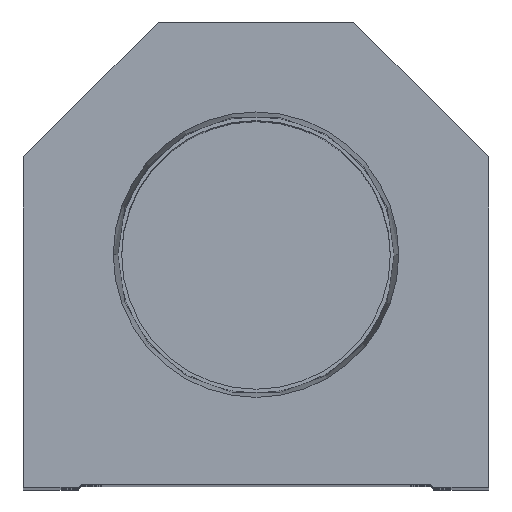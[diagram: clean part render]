
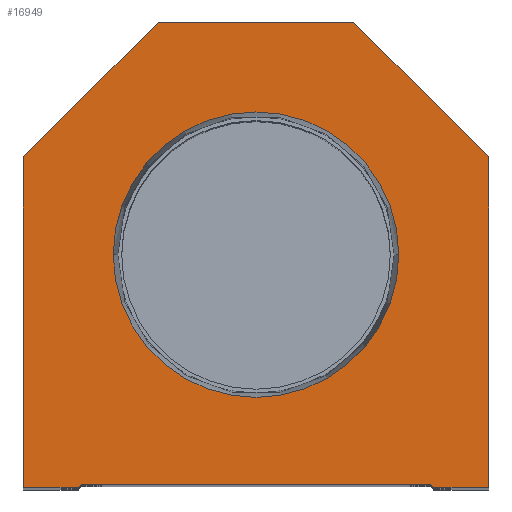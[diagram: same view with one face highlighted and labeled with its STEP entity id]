
A CAD part, top view. The second image highlights one B-rep face of the part: STEP entity #16949.
In plain terms, the highlighted planar face has unit normal (0, 0, 1).
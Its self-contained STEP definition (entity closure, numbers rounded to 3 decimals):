
#83 = DIRECTION ( 'NONE',  ( -1., 0., 0. ) ) ;
#151 = DIRECTION ( 'NONE',  ( 0., 0., 1. ) ) ;
#226 = EDGE_LOOP ( 'NONE', ( #2202, #17881 ) ) ;
#562 = CIRCLE ( 'NONE', #7959, 23.374 ) ;
#808 = VERTEX_POINT ( 'NONE', #3916 ) ;
#1235 = VECTOR ( 'NONE', #18504, 1000. ) ;
#1434 = LINE ( 'NONE', #6069, #9667 ) ;
#2001 = LINE ( 'NONE', #13223, #8708 ) ;
#2123 = VERTEX_POINT ( 'NONE', #6526 ) ;
#2202 = ORIENTED_EDGE ( 'NONE', *, *, #4161, .F. ) ;
#2557 = VECTOR ( 'NONE', #5436, 1000. ) ;
#2598 = VECTOR ( 'NONE', #11219, 1000. ) ;
#2617 = ORIENTED_EDGE ( 'NONE', *, *, #17027, .T. ) ;
#2696 = DIRECTION ( 'NONE',  ( 0.707, 0.707, 0. ) ) ;
#2942 = CARTESIAN_POINT ( 'NONE',  ( 0., 38.1, 0. ) ) ;
#3527 = CARTESIAN_POINT ( 'NONE',  ( 29.1, 0., 0. ) ) ;
#3648 = ORIENTED_EDGE ( 'NONE', *, *, #13901, .T. ) ;
#3916 = CARTESIAN_POINT ( 'NONE',  ( -38.1, 0., 0. ) ) ;
#4161 = EDGE_CURVE ( 'NONE', #2123, #14383, #6255, .T. ) ;
#4286 = VECTOR ( 'NONE', #19923, 1000. ) ;
#4335 = VERTEX_POINT ( 'NONE', #14930 ) ;
#4465 = EDGE_CURVE ( 'NONE', #16474, #8496, #14838, .T. ) ;
#4493 = VERTEX_POINT ( 'NONE', #20227 ) ;
#4545 = CARTESIAN_POINT ( 'NONE',  ( -29.1, 0., 0. ) ) ;
#4978 = LINE ( 'NONE', #6642, #18238 ) ;
#4979 = CARTESIAN_POINT ( 'NONE',  ( 38.1, 0., 0. ) ) ;
#5029 = VECTOR ( 'NONE', #19970, 1000. ) ;
#5261 = CARTESIAN_POINT ( 'NONE',  ( -38.1, 0., 0. ) ) ;
#5264 = AXIS2_PLACEMENT_3D ( 'NONE', #20865, #151, #11251 ) ;
#5289 = EDGE_CURVE ( 'NONE', #11193, #10706, #5339, .T. ) ;
#5339 = LINE ( 'NONE', #13471, #4286 ) ;
#5436 = DIRECTION ( 'NONE',  ( -0.707, 0.707, 0. ) ) ;
#5764 = DIRECTION ( 'NONE',  ( 1., 0., 0. ) ) ;
#5920 = CARTESIAN_POINT ( 'NONE',  ( -28.6, 0.5, 0. ) ) ;
#6069 = CARTESIAN_POINT ( 'NONE',  ( -14.55, 14.55, 0. ) ) ;
#6095 = ORIENTED_EDGE ( 'NONE', *, *, #10096, .T. ) ;
#6255 = CIRCLE ( 'NONE', #5264, 23.374 ) ;
#6326 = VERTEX_POINT ( 'NONE', #4545 ) ;
#6436 = DIRECTION ( 'NONE',  ( 0.707, -0.707, 0. ) ) ;
#6526 = CARTESIAN_POINT ( 'NONE',  ( 23.374, 38.1, 0. ) ) ;
#6642 = CARTESIAN_POINT ( 'NONE',  ( 14.55, 14.55, 0. ) ) ;
#6644 = CARTESIAN_POINT ( 'NONE',  ( 16., 76.2, 0. ) ) ;
#6822 = LINE ( 'NONE', #5261, #2598 ) ;
#6932 = CARTESIAN_POINT ( 'NONE',  ( 38.1, 0., 0. ) ) ;
#7014 = LINE ( 'NONE', #7321, #18160 ) ;
#7031 = DIRECTION ( 'NONE',  ( 1., 0., 0. ) ) ;
#7321 = CARTESIAN_POINT ( 'NONE',  ( -28.6, 0., 0. ) ) ;
#7622 = AXIS2_PLACEMENT_3D ( 'NONE', #13813, #19845, #7031 ) ;
#7674 = ORIENTED_EDGE ( 'NONE', *, *, #5289, .T. ) ;
#7713 = EDGE_CURVE ( 'NONE', #10706, #16474, #20272, .T. ) ;
#7959 = AXIS2_PLACEMENT_3D ( 'NONE', #2942, #11505, #17925 ) ;
#8390 = ORIENTED_EDGE ( 'NONE', *, *, #10731, .T. ) ;
#8496 = VERTEX_POINT ( 'NONE', #6644 ) ;
#8609 = EDGE_CURVE ( 'NONE', #14383, #2123, #562, .T. ) ;
#8708 = VECTOR ( 'NONE', #16979, 1000. ) ;
#9171 = CARTESIAN_POINT ( 'NONE',  ( -28.6, 0.5, 0. ) ) ;
#9667 = VECTOR ( 'NONE', #2696, 1000. ) ;
#9726 = EDGE_CURVE ( 'NONE', #808, #6326, #7014, .T. ) ;
#10096 = EDGE_CURVE ( 'NONE', #14801, #808, #6822, .T. ) ;
#10706 = VERTEX_POINT ( 'NONE', #4979 ) ;
#10731 = EDGE_CURVE ( 'NONE', #4335, #14801, #2001, .T. ) ;
#10967 = CARTESIAN_POINT ( 'NONE',  ( -23.374, 38.1, 0. ) ) ;
#11103 = CARTESIAN_POINT ( 'NONE',  ( 38.1, 54.1, 0. ) ) ;
#11193 = VERTEX_POINT ( 'NONE', #3527 ) ;
#11219 = DIRECTION ( 'NONE',  ( 0., -1., 0. ) ) ;
#11251 = DIRECTION ( 'NONE',  ( 1., 0., 0. ) ) ;
#11505 = DIRECTION ( 'NONE',  ( 0., 0., 1. ) ) ;
#11781 = CARTESIAN_POINT ( 'NONE',  ( 38.1, 54.1, 0. ) ) ;
#11785 = CARTESIAN_POINT ( 'NONE',  ( -38.1, 54.1, 0. ) ) ;
#11846 = ORIENTED_EDGE ( 'NONE', *, *, #4465, .T. ) ;
#12132 = FACE_OUTER_BOUND ( 'NONE', #15974, .T. ) ;
#12298 = ORIENTED_EDGE ( 'NONE', *, *, #9726, .T. ) ;
#13223 = CARTESIAN_POINT ( 'NONE',  ( -38.1, 54.1, 0. ) ) ;
#13471 = CARTESIAN_POINT ( 'NONE',  ( 28.6, 0., 0. ) ) ;
#13813 = CARTESIAN_POINT ( 'NONE',  ( 0., 0., 0. ) ) ;
#13901 = EDGE_CURVE ( 'NONE', #4493, #11193, #4978, .T. ) ;
#14383 = VERTEX_POINT ( 'NONE', #10967 ) ;
#14567 = CARTESIAN_POINT ( 'NONE',  ( 16., 76.2, 0. ) ) ;
#14801 = VERTEX_POINT ( 'NONE', #11785 ) ;
#14838 = LINE ( 'NONE', #11781, #2557 ) ;
#14930 = CARTESIAN_POINT ( 'NONE',  ( -16., 76.2, 0. ) ) ;
#15286 = FACE_BOUND ( 'NONE', #226, .T. ) ;
#15637 = ORIENTED_EDGE ( 'NONE', *, *, #17364, .T. ) ;
#15974 = EDGE_LOOP ( 'NONE', ( #12298, #2617, #15637, #3648, #7674, #19732, #11846, #19433, #8390, #6095 ) ) ;
#16332 = LINE ( 'NONE', #14567, #19014 ) ;
#16474 = VERTEX_POINT ( 'NONE', #11103 ) ;
#16818 = LINE ( 'NONE', #5920, #1235 ) ;
#16949 = ADVANCED_FACE ( 'NONE', ( #15286, #12132 ), #20163, .T. ) ;
#16979 = DIRECTION ( 'NONE',  ( -0.707, -0.707, 0. ) ) ;
#17027 = EDGE_CURVE ( 'NONE', #6326, #19070, #1434, .T. ) ;
#17364 = EDGE_CURVE ( 'NONE', #19070, #4493, #16818, .T. ) ;
#17881 = ORIENTED_EDGE ( 'NONE', *, *, #8609, .F. ) ;
#17925 = DIRECTION ( 'NONE',  ( 1., 0., 0. ) ) ;
#18160 = VECTOR ( 'NONE', #5764, 1000. ) ;
#18238 = VECTOR ( 'NONE', #6436, 1000. ) ;
#18504 = DIRECTION ( 'NONE',  ( 1., 0., 0. ) ) ;
#19014 = VECTOR ( 'NONE', #83, 1000. ) ;
#19070 = VERTEX_POINT ( 'NONE', #9171 ) ;
#19433 = ORIENTED_EDGE ( 'NONE', *, *, #20629, .T. ) ;
#19732 = ORIENTED_EDGE ( 'NONE', *, *, #7713, .T. ) ;
#19845 = DIRECTION ( 'NONE',  ( 0., 0., 1. ) ) ;
#19923 = DIRECTION ( 'NONE',  ( 1., 0., 0. ) ) ;
#19970 = DIRECTION ( 'NONE',  ( 0., 1., 0. ) ) ;
#20163 = PLANE ( 'NONE',  #7622 ) ;
#20227 = CARTESIAN_POINT ( 'NONE',  ( 28.6, 0.5, 0. ) ) ;
#20272 = LINE ( 'NONE', #6932, #5029 ) ;
#20629 = EDGE_CURVE ( 'NONE', #8496, #4335, #16332, .T. ) ;
#20865 = CARTESIAN_POINT ( 'NONE',  ( 0., 38.1, 0. ) ) ;
